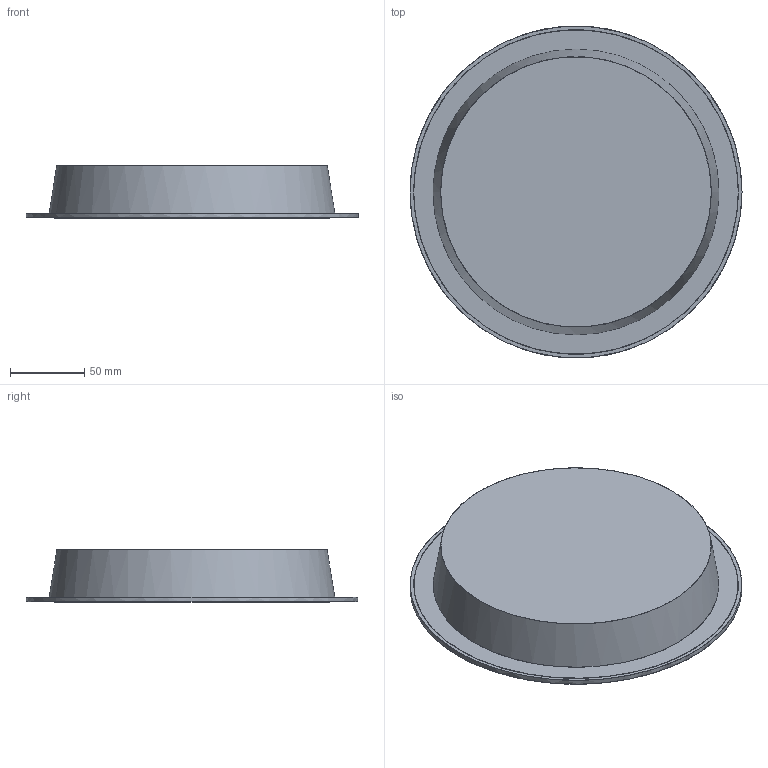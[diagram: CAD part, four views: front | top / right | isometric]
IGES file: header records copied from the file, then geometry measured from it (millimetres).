
Start section: SolidWorks IGES file using NURBS representation for surfaces
Global section: file name: Z:\Modele 3D_WWW\_Commercial\CL-KOS-LED\CL-KOS-LED-24W-8775-8774\CL-KOS-LED-24W-8775-8774.IGS; native system: SolidWorks 2021; preprocessor: SolidWorks 2021; author: gabriela.tworek; date: 220218.130829; units: millimetre
Bounding box: 224 x 223.69 x 35.36 mm (x, y, z)
Surface area: 169635.4 mm2 (no closed solid volume)
Topology: 0 solids, 0 shells, 14 faces, 55 edges, 48 vertices
Faces by surface type: bspline 14
